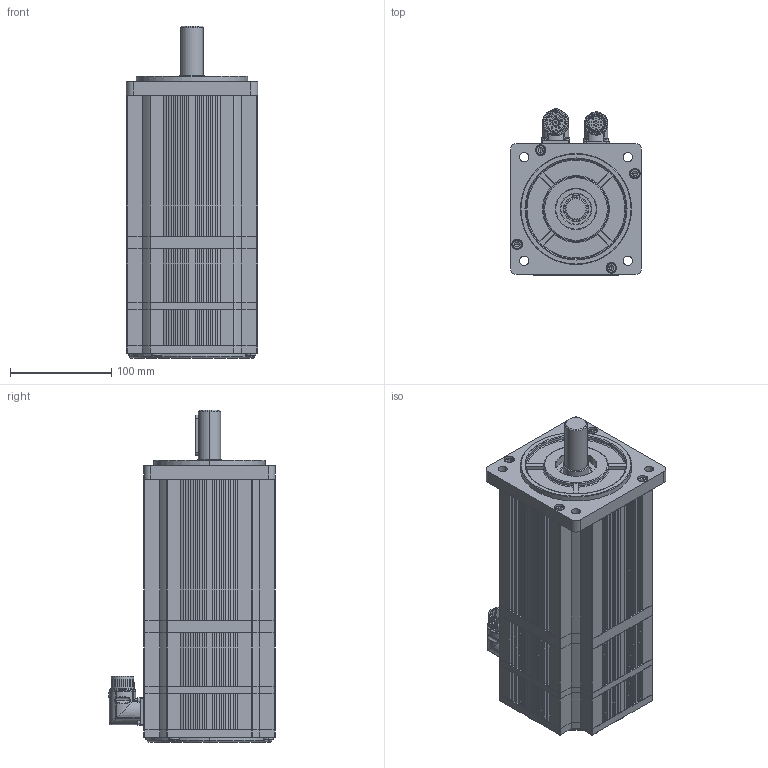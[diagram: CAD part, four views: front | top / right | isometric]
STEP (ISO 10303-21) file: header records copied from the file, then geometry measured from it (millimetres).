
FILE_DESCRIPTION (( 'STEP AP214' ), '1' );
FILE_NAME ('SMC130D-0300-20MBK-5HSP.STEP', '2022-09-14T06:08:18', ( '' ), ( '' ), 'SwSTEP 2.0', 'SolidWorks 2018', '' );
FILE_SCHEMA (( 'AUTOMOTIVE_DESIGN' ));
Length unit declared in the file: millimetre
Products named in the file (14): hexagon socket head cap screws gb_GB_FASTENER_SCREWS_HSHCS M6X20-N; 綴傷裔; 价陬裔啣; hexagon socket head cap screws gb_GB_FASTENER_SCREWS_HSHCS M6X55-N; 鎢攫欶綴裔; 郋弊莉陓瘍菁釱; hexagon socket head cap screws gb_GB_FASTENER_SCREWS_HSHCS M2.5X8-N; 鎢攫欶褲极; 郋弊莉萇埭菁釱; 儂褲; ヶ傷裔; ぱ籵A倰瑩; 价陬欶; SMC130D-0300-20MBK-5HSP
Assembly tree (26 placements, depth 2):
  SMC130D-0300-20MBK-5HSP
    ヶ傷裔
    儂褲
    綴傷裔
    鎢攫欶褲极
    鎢攫欶綴裔
    郋弊莉萇埭菁釱
    郋弊莉陓瘍菁釱
    hexagon socket head cap screws gb_GB_FASTENER_SCREWS_HSHCS M2.5X8-N  x8
    hexagon socket head cap screws gb_GB_FASTENER_SCREWS_HSHCS M6X55-N  x4
    ぱ籵A倰瑩
    hexagon socket head cap screws gb_GB_FASTENER_SCREWS_HSHCS M6X20-N  x4
    价陬欶
    价陬裔啣
Bounding box: 130 x 164.5 x 328.5 mm (x, y, z)
Volume: 4093042.9 mm3; surface area: 466698 mm2
Topology: 50 solids, 50 shells, 2087 faces, 5371 edges, 3423 vertices
Faces by surface type: plane 978, cylinder 870, cone 90, torus 90, sphere 46, bspline 13
Entity records: 67172 total; most frequent: CARTESIAN_POINT 11767, DIRECTION 9719, ORIENTED_EDGE 9058, EDGE_CURVE 4529, AXIS2_PLACEMENT_3D 3560, VERTEX_POINT 2948, VECTOR 2599, LINE 2599
